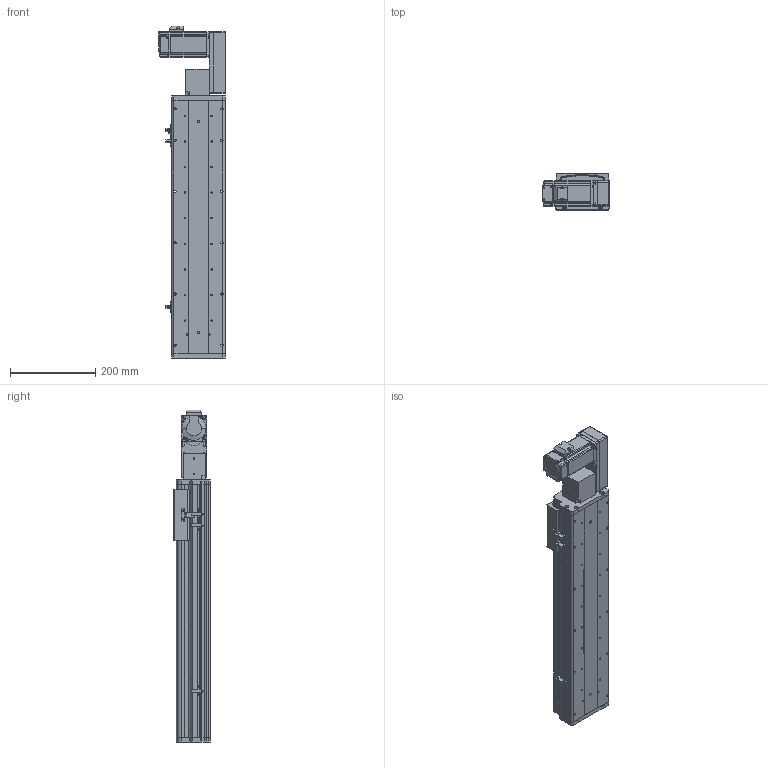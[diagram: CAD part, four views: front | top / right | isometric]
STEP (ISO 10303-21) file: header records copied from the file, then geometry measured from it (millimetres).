
FILE_DESCRIPTION (( 'STEP AP214' ), '1' );
FILE_NAME ('KSD125B-S400-MLB-CM.STEP', '2017-10-21T01:35:34', ( '微软用户' ), ( '微软中国' ), 'SwSTEP 2.0', 'SolidWorks 2014', '' );
FILE_SCHEMA (( 'AUTOMOTIVE_DESIGN' ));
Length unit declared in the file: millimetre
Products named in the file (17): KSD125模组同步带-防撞垫2; 覜茼え68遵圉猾敕; U倰嫖萇假蚾璃; U倰嫖萇EEㄜSX672; KSD125模组同步带-防撞垫1; 前端板-125宽模组同步带; 125模组同步带-尾端板1; KSD125模组同步带-滑动座1; KSD125B-S400-MLB-CM; 悵誘欶奻狟殏; HTPA30S3M150_A_H6_a佪裝蚚; HTPA30S3M150_A_H6_a萇儂蚚; 100宽马达安装板连板上下折丝杆同步带; MHMD042G1CA_2_03; 100宽马达安装板同步带左; KSD125模组400行程同步带-防尘盖; 125模组400行程同步带-底板
Assembly tree (20 placements, depth 2):
  KSD125B-S400-MLB-CM
    KSD125模组同步带-滑动座1
    125模组同步带-尾端板1
    前端板-125宽模组同步带
    KSD125模组同步带-防撞垫1
    U倰嫖萇EEㄜSX672  x3
    U倰嫖萇假蚾璃  x3
    覜茼え68遵圉猾敕
    KSD125模组同步带-防撞垫2
    125模组400行程同步带-底板
    KSD125模组400行程同步带-防尘盖
    100宽马达安装板同步带左
    MHMD042G1CA_2_03
    100宽马达安装板连板上下折丝杆同步带
    HTPA30S3M150_A_H6_a萇儂蚚
    HTPA30S3M150_A_H6_a佪裝蚚
    悵誘欶奻狟殏
Bounding box: 155 x 86 x 778 mm (x, y, z)
Volume: 2322495.4 mm3; surface area: 816738.1 mm2
Topology: 19 solids, 22 shells, 2231 faces, 6457 edges, 4266 vertices
Faces by surface type: cylinder 1384, plane 720, cone 105, bspline 22
Entity records: 78959 total; most frequent: CARTESIAN_POINT 15639, DIRECTION 12286, ORIENTED_EDGE 11434, EDGE_CURVE 5795, AXIS2_PLACEMENT_3D 4737, VERTEX_POINT 3858, VECTOR 2812, LINE 2812
